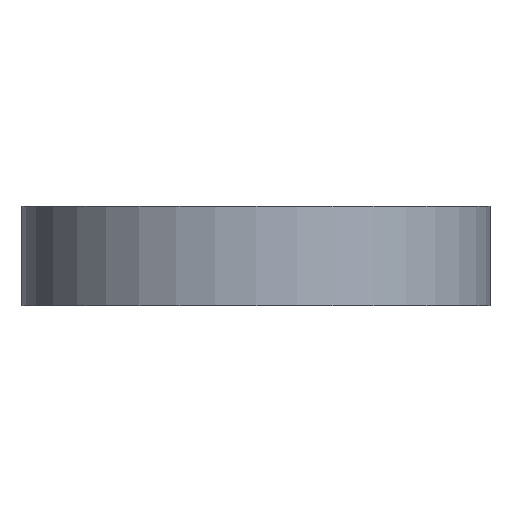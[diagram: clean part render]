
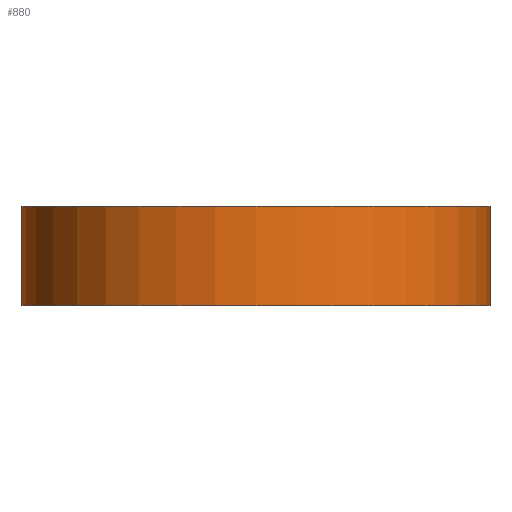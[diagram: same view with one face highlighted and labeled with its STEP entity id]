
A CAD part, left-side view. The second image highlights one B-rep face of the part: STEP entity #880.
In plain terms, the highlighted cylindrical face has radius 30.5 mm (diameter 61 mm), a partial arc.
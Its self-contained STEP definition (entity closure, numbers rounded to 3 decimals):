
#31 = PLANE('',#32);
#32 = AXIS2_PLACEMENT_3D('',#33,#34,#35);
#33 = CARTESIAN_POINT('',(0.,0.,13.));
#34 = DIRECTION('',(0.,0.,1.));
#35 = DIRECTION('',(1.,0.,0.));
#57 = EDGE_CURVE('',#58,#60,#62,.T.);
#58 = VERTEX_POINT('',#59);
#59 = CARTESIAN_POINT('',(-18.,30.5,13.));
#60 = VERTEX_POINT('',#61);
#61 = CARTESIAN_POINT('',(-18.,-30.5,13.));
#62 = SURFACE_CURVE('',#63,(#68,#75),.PCURVE_S1.);
#63 = CIRCLE('',#64,30.5);
#64 = AXIS2_PLACEMENT_3D('',#65,#66,#67);
#65 = CARTESIAN_POINT('',(-18.,0.,13.));
#66 = DIRECTION('',(0.,0.,1.));
#67 = DIRECTION('',(1.,0.,0.));
#68 = PCURVE('',#31,#69);
#69 = DEFINITIONAL_REPRESENTATION('',(#70),#74);
#70 = CIRCLE('',#71,30.5);
#71 = AXIS2_PLACEMENT_2D('',#72,#73);
#72 = CARTESIAN_POINT('',(-18.,0.));
#73 = DIRECTION('',(1.,0.));
#74 = ( GEOMETRIC_REPRESENTATION_CONTEXT(2) 
PARAMETRIC_REPRESENTATION_CONTEXT() REPRESENTATION_CONTEXT('2D SPACE',''
  ) );
#75 = PCURVE('',#76,#81);
#76 = CYLINDRICAL_SURFACE('',#77,30.5);
#77 = AXIS2_PLACEMENT_3D('',#78,#79,#80);
#78 = CARTESIAN_POINT('',(-18.,0.,0.));
#79 = DIRECTION('',(-0.,-0.,-1.));
#80 = DIRECTION('',(1.,0.,0.));
#81 = DEFINITIONAL_REPRESENTATION('',(#82),#86);
#82 = LINE('',#83,#84);
#83 = CARTESIAN_POINT('',(-0.,-13.));
#84 = VECTOR('',#85,1.);
#85 = DIRECTION('',(-1.,0.));
#86 = ( GEOMETRIC_REPRESENTATION_CONTEXT(2) 
PARAMETRIC_REPRESENTATION_CONTEXT() REPRESENTATION_CONTEXT('2D SPACE',''
  ) );
#104 = PLANE('',#105);
#105 = AXIS2_PLACEMENT_3D('',#106,#107,#108);
#106 = CARTESIAN_POINT('',(-18.,-30.5,0.));
#107 = DIRECTION('',(0.,1.,0.));
#108 = DIRECTION('',(1.,0.,0.));
#159 = PLANE('',#160);
#160 = AXIS2_PLACEMENT_3D('',#161,#162,#163);
#161 = CARTESIAN_POINT('',(18.,30.5,0.));
#162 = DIRECTION('',(0.,-1.,0.));
#163 = DIRECTION('',(-1.,0.,0.));
#880 = ADVANCED_FACE('',(#881),#76,.T.);
#881 = FACE_BOUND('',#882,.F.);
#882 = EDGE_LOOP('',(#883,#906,#907,#930));
#883 = ORIENTED_EDGE('',*,*,#884,.T.);
#884 = EDGE_CURVE('',#885,#58,#887,.T.);
#885 = VERTEX_POINT('',#886);
#886 = CARTESIAN_POINT('',(-18.,30.5,0.));
#887 = SURFACE_CURVE('',#888,(#892,#899),.PCURVE_S1.);
#888 = LINE('',#889,#890);
#889 = CARTESIAN_POINT('',(-18.,30.5,0.));
#890 = VECTOR('',#891,1.);
#891 = DIRECTION('',(0.,0.,1.));
#892 = PCURVE('',#76,#893);
#893 = DEFINITIONAL_REPRESENTATION('',(#894),#898);
#894 = LINE('',#895,#896);
#895 = CARTESIAN_POINT('',(-1.571,0.));
#896 = VECTOR('',#897,1.);
#897 = DIRECTION('',(-0.,-1.));
#898 = ( GEOMETRIC_REPRESENTATION_CONTEXT(2) 
PARAMETRIC_REPRESENTATION_CONTEXT() REPRESENTATION_CONTEXT('2D SPACE',''
  ) );
#899 = PCURVE('',#159,#900);
#900 = DEFINITIONAL_REPRESENTATION('',(#901),#905);
#901 = LINE('',#902,#903);
#902 = CARTESIAN_POINT('',(36.,0.));
#903 = VECTOR('',#904,1.);
#904 = DIRECTION('',(0.,-1.));
#905 = ( GEOMETRIC_REPRESENTATION_CONTEXT(2) 
PARAMETRIC_REPRESENTATION_CONTEXT() REPRESENTATION_CONTEXT('2D SPACE',''
  ) );
#906 = ORIENTED_EDGE('',*,*,#57,.T.);
#907 = ORIENTED_EDGE('',*,*,#908,.F.);
#908 = EDGE_CURVE('',#909,#60,#911,.T.);
#909 = VERTEX_POINT('',#910);
#910 = CARTESIAN_POINT('',(-18.,-30.5,0.));
#911 = SURFACE_CURVE('',#912,(#916,#923),.PCURVE_S1.);
#912 = LINE('',#913,#914);
#913 = CARTESIAN_POINT('',(-18.,-30.5,0.));
#914 = VECTOR('',#915,1.);
#915 = DIRECTION('',(0.,0.,1.));
#916 = PCURVE('',#76,#917);
#917 = DEFINITIONAL_REPRESENTATION('',(#918),#922);
#918 = LINE('',#919,#920);
#919 = CARTESIAN_POINT('',(-4.712,0.));
#920 = VECTOR('',#921,1.);
#921 = DIRECTION('',(-0.,-1.));
#922 = ( GEOMETRIC_REPRESENTATION_CONTEXT(2) 
PARAMETRIC_REPRESENTATION_CONTEXT() REPRESENTATION_CONTEXT('2D SPACE',''
  ) );
#923 = PCURVE('',#104,#924);
#924 = DEFINITIONAL_REPRESENTATION('',(#925),#929);
#925 = LINE('',#926,#927);
#926 = CARTESIAN_POINT('',(0.,0.));
#927 = VECTOR('',#928,1.);
#928 = DIRECTION('',(0.,-1.));
#929 = ( GEOMETRIC_REPRESENTATION_CONTEXT(2) 
PARAMETRIC_REPRESENTATION_CONTEXT() REPRESENTATION_CONTEXT('2D SPACE',''
  ) );
#930 = ORIENTED_EDGE('',*,*,#931,.F.);
#931 = EDGE_CURVE('',#885,#909,#932,.T.);
#932 = SURFACE_CURVE('',#933,(#938,#945),.PCURVE_S1.);
#933 = CIRCLE('',#934,30.5);
#934 = AXIS2_PLACEMENT_3D('',#935,#936,#937);
#935 = CARTESIAN_POINT('',(-18.,0.,0.));
#936 = DIRECTION('',(0.,0.,1.));
#937 = DIRECTION('',(1.,0.,0.));
#938 = PCURVE('',#76,#939);
#939 = DEFINITIONAL_REPRESENTATION('',(#940),#944);
#940 = LINE('',#941,#942);
#941 = CARTESIAN_POINT('',(-0.,0.));
#942 = VECTOR('',#943,1.);
#943 = DIRECTION('',(-1.,0.));
#944 = ( GEOMETRIC_REPRESENTATION_CONTEXT(2) 
PARAMETRIC_REPRESENTATION_CONTEXT() REPRESENTATION_CONTEXT('2D SPACE',''
  ) );
#945 = PCURVE('',#946,#951);
#946 = PLANE('',#947);
#947 = AXIS2_PLACEMENT_3D('',#948,#949,#950);
#948 = CARTESIAN_POINT('',(0.,0.,0.));
#949 = DIRECTION('',(0.,0.,1.));
#950 = DIRECTION('',(1.,0.,0.));
#951 = DEFINITIONAL_REPRESENTATION('',(#952),#956);
#952 = CIRCLE('',#953,30.5);
#953 = AXIS2_PLACEMENT_2D('',#954,#955);
#954 = CARTESIAN_POINT('',(-18.,0.));
#955 = DIRECTION('',(1.,0.));
#956 = ( GEOMETRIC_REPRESENTATION_CONTEXT(2) 
PARAMETRIC_REPRESENTATION_CONTEXT() REPRESENTATION_CONTEXT('2D SPACE',''
  ) );
